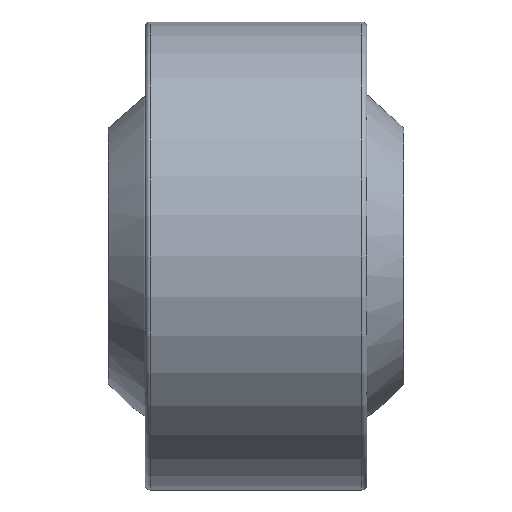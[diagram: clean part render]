
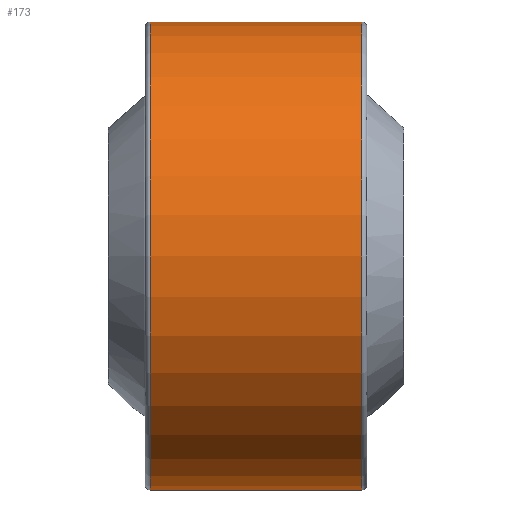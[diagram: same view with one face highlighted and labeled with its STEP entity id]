
A CAD part, front view. The second image highlights one B-rep face of the part: STEP entity #173.
In plain terms, the highlighted cylindrical face has radius 9.5 mm (diameter 19 mm), a full revolution.
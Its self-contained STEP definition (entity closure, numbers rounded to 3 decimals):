
#173 = ADVANCED_FACE( '', ( #193, #194 ), #195, .T. );
#193 = FACE_OUTER_BOUND( '', #224, .T. );
#194 = FACE_OUTER_BOUND( '', #225, .T. );
#195 = CYLINDRICAL_SURFACE( '', #226, 9.5 );
#224 = EDGE_LOOP( '', ( #262 ) );
#225 = EDGE_LOOP( '', ( #263 ) );
#226 = AXIS2_PLACEMENT_3D( '', #264, #265, #266 );
#262 = ORIENTED_EDGE( '', *, *, #297, .T. );
#263 = ORIENTED_EDGE( '', *, *, #296, .F. );
#264 = CARTESIAN_POINT( '', ( 4.5, 0., 0. ) );
#265 = DIRECTION( '', ( -1., 0., 0. ) );
#266 = DIRECTION( '', ( 0., 0., -1. ) );
#296 = EDGE_CURVE( '', #310, #310, #311, .T. );
#297 = EDGE_CURVE( '', #312, #312, #313, .T. );
#310 = VERTEX_POINT( '', #330 );
#311 = CIRCLE( '', #331, 9.5 );
#312 = VERTEX_POINT( '', #332 );
#313 = CIRCLE( '', #333, 9.5 );
#330 = CARTESIAN_POINT( '', ( 4.3, 0., -9.5 ) );
#331 = AXIS2_PLACEMENT_3D( '', #354, #355, #356 );
#332 = CARTESIAN_POINT( '', ( -4.3, 0., -9.5 ) );
#333 = AXIS2_PLACEMENT_3D( '', #357, #358, #359 );
#354 = CARTESIAN_POINT( '', ( 4.3, 0., 0. ) );
#355 = DIRECTION( '', ( 1., 0., 0. ) );
#356 = DIRECTION( '', ( 0., 0., -1. ) );
#357 = CARTESIAN_POINT( '', ( -4.3, 0., 0. ) );
#358 = DIRECTION( '', ( 1., 0., 0. ) );
#359 = DIRECTION( '', ( 0., 0., -1. ) );
